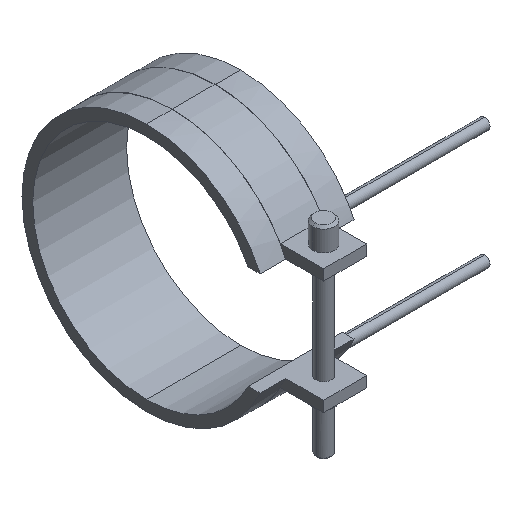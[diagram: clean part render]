
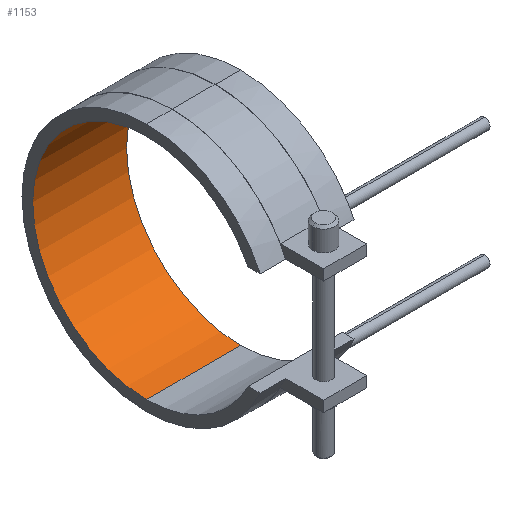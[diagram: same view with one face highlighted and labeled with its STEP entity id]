
A CAD part, isometric view. The second image highlights one B-rep face of the part: STEP entity #1153.
In plain terms, the highlighted cylindrical face has radius 42.5 mm (diameter 85 mm), a partial arc.
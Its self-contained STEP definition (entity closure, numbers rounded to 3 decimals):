
#834=CARTESIAN_POINT('Vertex',(-17.5,0.,-42.5)) ;
#841=CARTESIAN_POINT('Vertex',(17.5,0.,-42.5)) ;
#844=CARTESIAN_POINT('Line Origine',(17.5,0.,-42.5)) ;
#862=CARTESIAN_POINT('Axis2P3D Location',(-17.5,0.,0.)) ;
#866=CARTESIAN_POINT('Vertex',(-17.5,0.,42.5)) ;
#923=CARTESIAN_POINT('Vertex',(17.5,0.,42.5)) ;
#933=CARTESIAN_POINT('Line Origine',(17.5,0.,42.5)) ;
#1024=CARTESIAN_POINT('Axis2P3D Location',(17.5,0.,0.)) ;
#1142=CARTESIAN_POINT('Axis2P3D Location',(17.5,0.,0.)) ;
#845=DIRECTION('Vector Direction',(1.,0.,0.)) ;
#863=DIRECTION('Axis2P3D Direction',(1.,0.,0.)) ;
#934=DIRECTION('Vector Direction',(1.,0.,0.)) ;
#1025=DIRECTION('Axis2P3D Direction',(1.,0.,0.)) ;
#1143=DIRECTION('Axis2P3D Direction',(1.,0.,-0.)) ;
#1144=DIRECTION('Axis2P3D XDirection',(0.,0.,-1.)) ;
#864=AXIS2_PLACEMENT_3D('Circle Axis2P3D',#862,#863,$) ;
#1026=AXIS2_PLACEMENT_3D('Circle Axis2P3D',#1024,#1025,$) ;
#1145=AXIS2_PLACEMENT_3D('Cylinder Axis2P3D',#1142,#1143,#1144) ;
#1148=ORIENTED_EDGE('',*,*,#1028,.T.) ;
#1149=ORIENTED_EDGE('',*,*,#937,.T.) ;
#1150=ORIENTED_EDGE('',*,*,#868,.F.) ;
#1151=ORIENTED_EDGE('',*,*,#848,.T.) ;
#846=VECTOR('Line Direction',#845,1.) ;
#935=VECTOR('Line Direction',#934,1.) ;
#1153=ADVANCED_FACE('14085035',(#1152),#1146,.F.) ;
#865=CIRCLE('generated circle',#864,42.5) ;
#1027=CIRCLE('generated circle',#1026,42.5) ;
#1146=CYLINDRICAL_SURFACE('generated cylinder',#1145,42.5) ;
#848=EDGE_CURVE('',#835,#842,#847,.T.) ;
#868=EDGE_CURVE('',#835,#867,#865,.T.) ;
#937=EDGE_CURVE('',#924,#867,#936,.F.) ;
#1028=EDGE_CURVE('',#842,#924,#1027,.T.) ;
#1147=EDGE_LOOP('',(#1148,#1149,#1150,#1151)) ;
#1152=FACE_OUTER_BOUND('',#1147,.T.) ;
#847=LINE('Line',#844,#846) ;
#936=LINE('Line',#933,#935) ;
#835=VERTEX_POINT('',#834) ;
#842=VERTEX_POINT('',#841) ;
#867=VERTEX_POINT('',#866) ;
#924=VERTEX_POINT('',#923) ;
